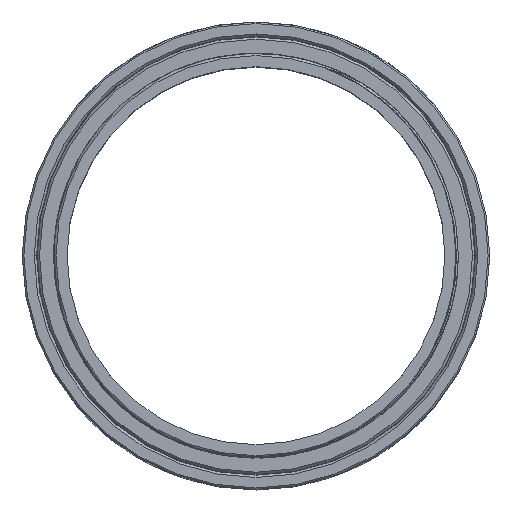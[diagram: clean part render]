
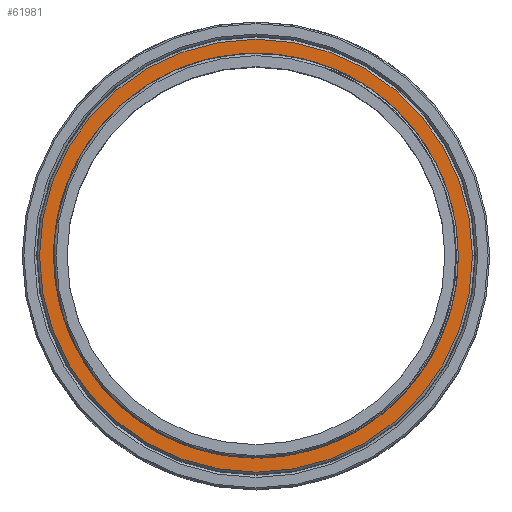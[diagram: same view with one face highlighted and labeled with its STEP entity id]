
A CAD part, top view. The second image highlights one B-rep face of the part: STEP entity #61981.
In plain terms, the highlighted planar face has unit normal (0, 0, 1).
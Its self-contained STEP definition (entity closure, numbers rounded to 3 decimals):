
#11140=CARTESIAN_POINT('',(0.,0.,-18.1));
#11141=DIRECTION('',(0.,0.,-1.));
#11142=DIRECTION('',(-1.,0.,0.));
#11143=AXIS2_PLACEMENT_3D('',#11140,#11141,#11142);
#11145=CARTESIAN_POINT('',(0.,0.,-18.1));
#11146=DIRECTION('',(0.,0.,-1.));
#11147=DIRECTION('',(1.,0.,0.));
#11148=AXIS2_PLACEMENT_3D('',#11145,#11146,#11147);
#11150=CARTESIAN_POINT('',(0.,0.,-18.1));
#11151=DIRECTION('',(0.,0.,-1.));
#11152=DIRECTION('',(-1.,0.,0.));
#11153=AXIS2_PLACEMENT_3D('',#11150,#11151,#11152);
#11155=CARTESIAN_POINT('',(0.,0.,-18.1));
#11156=DIRECTION('',(0.,0.,-1.));
#11157=DIRECTION('',(1.,0.,0.));
#11158=AXIS2_PLACEMENT_3D('',#11155,#11156,#11157);
#11832=CARTESIAN_POINT('',(-25.387,0.,-18.1));
#11833=CARTESIAN_POINT('',(25.387,0.,-18.1));
#11834=VERTEX_POINT('',#11832);
#11835=VERTEX_POINT('',#11833);
#11852=CARTESIAN_POINT('',(-27.64,0.,-18.1));
#11853=CARTESIAN_POINT('',(27.64,0.,-18.1));
#11854=VERTEX_POINT('',#11852);
#11855=VERTEX_POINT('',#11853);
#61967=CARTESIAN_POINT('',(0.,25.387,-18.1));
#61968=DIRECTION('',(0.,0.,-1.));
#61969=DIRECTION('',(-1.,0.,0.));
#61970=AXIS2_PLACEMENT_3D('',#61967,#61968,#61969);
#61971=PLANE('',#61970);
#61972=ORIENTED_EDGE('',*,*,#12157,.T.);
#61973=ORIENTED_EDGE('',*,*,#12142,.T.);
#61974=EDGE_LOOP('',(#61972,#61973));
#61975=FACE_OUTER_BOUND('',#61974,.F.);
#61976=ORIENTED_EDGE('',*,*,#61957,.F.);
#61978=ORIENTED_EDGE('',*,*,#61977,.F.);
#61979=EDGE_LOOP('',(#61976,#61978));
#61980=FACE_BOUND('',#61979,.F.);
#61981=ADVANCED_FACE('',(#61975,#61980),#61971,.F.);
#11144=CIRCLE('',#11143,25.387);
#11149=CIRCLE('',#11148,25.387);
#11154=CIRCLE('',#11153,27.64);
#11159=CIRCLE('',#11158,27.64);
#12142=EDGE_CURVE('',#11855,#11854,#11159,.T.);
#12157=EDGE_CURVE('',#11854,#11855,#11154,.T.);
#61957=EDGE_CURVE('',#11834,#11835,#11144,.T.);
#61977=EDGE_CURVE('',#11835,#11834,#11149,.T.);
